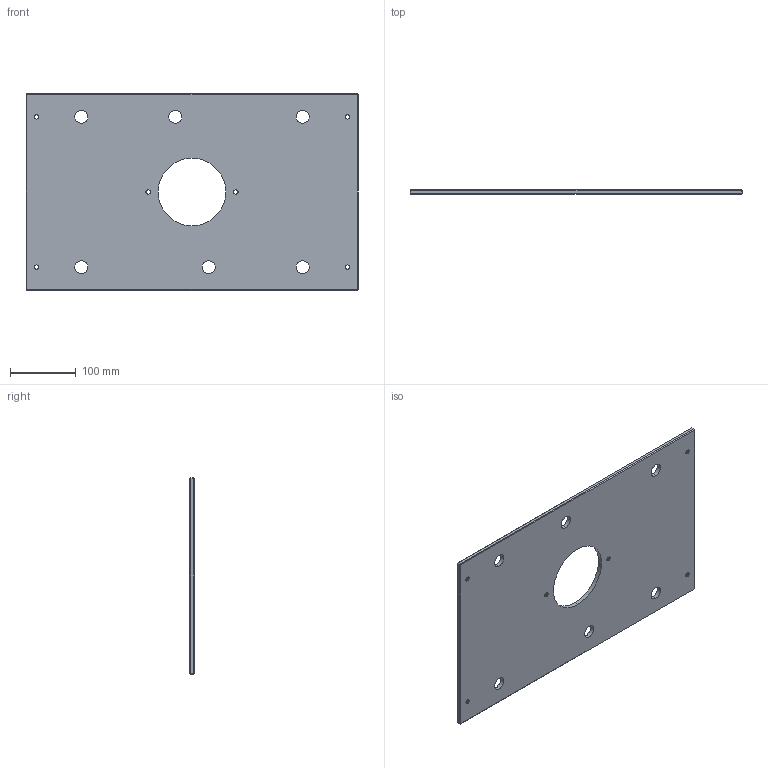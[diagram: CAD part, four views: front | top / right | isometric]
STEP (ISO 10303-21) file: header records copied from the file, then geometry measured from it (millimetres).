
FILE_DESCRIPTION (( 'STEP AP214' ), '1' );
FILE_NAME ('ME-0619-CH-1220-A.STEP', '2020-02-11T11:32:06', ( '' ), ( '' ), 'SwSTEP 2.0', 'SolidWorks 2018', '' );
FILE_SCHEMA (( 'AUTOMOTIVE_DESIGN' ));
Length unit declared in the file: inch
Products named in the file (1): ME-0619-CH-1220-A
Bounding box: 504.82 x 6.35 x 298.45 mm (x, y, z)
Volume: 886516.3 mm3; surface area: 293352.3 mm2
Topology: 1 solids, 1 shells, 64 faces, 150 edges, 88 vertices
Faces by surface type: cylinder 26, plane 26, cone 12
Entity records: 1902 total; most frequent: DIRECTION 344, CARTESIAN_POINT 303, ORIENTED_EDGE 300, EDGE_CURVE 150, AXIS2_PLACEMENT_3D 129, EDGE_LOOP 90, VERTEX_POINT 88, VECTOR 86
